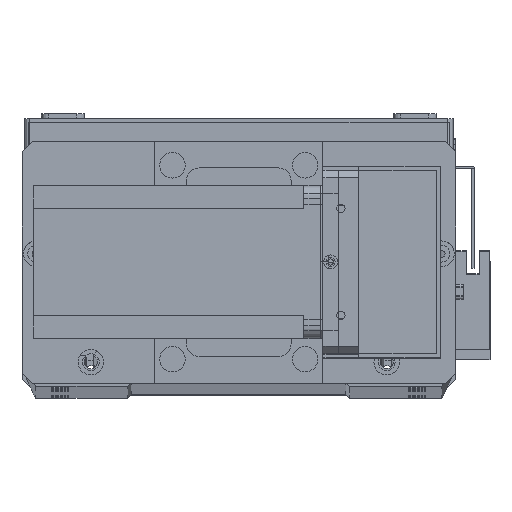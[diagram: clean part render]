
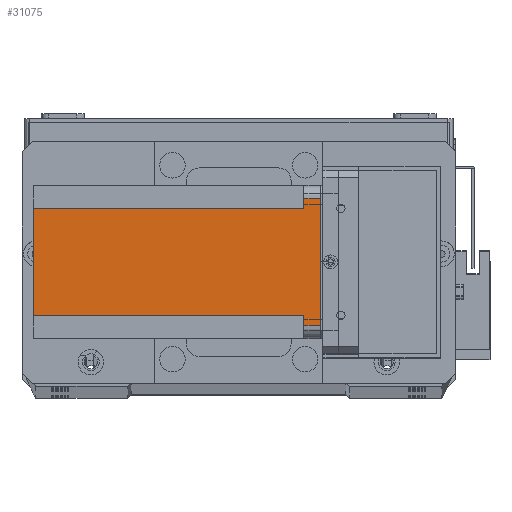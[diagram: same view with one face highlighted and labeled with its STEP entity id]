
A CAD part, top view. The second image highlights one B-rep face of the part: STEP entity #31075.
In plain terms, the highlighted planar face has unit normal (0, 0, 1) as drawn and (-1, 0, 0) by its records, which use the part's own axes.
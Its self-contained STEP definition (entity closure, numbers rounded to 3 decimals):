
#484 = ORIENTED_EDGE ( 'NONE', *, *, #1115, .F. ) ;
#1115 = EDGE_CURVE ( 'NONE', #31172, #25699, #19285, .T. ) ;
#1450 = VECTOR ( 'NONE', #26125, 1000. ) ;
#1812 = EDGE_CURVE ( 'NONE', #31875, #1965, #6673, .T. ) ;
#1818 = EDGE_CURVE ( 'NONE', #7607, #27470, #12912, .T. ) ;
#1856 = EDGE_CURVE ( 'NONE', #7607, #1965, #11250, .T. ) ;
#1899 = EDGE_CURVE ( 'NONE', #31172, #8650, #8779, .T. ) ;
#1902 = EDGE_CURVE ( 'NONE', #31875, #16271, #15776, .T. ) ;
#1965 = VERTEX_POINT ( 'NONE', #17737 ) ;
#2016 = EDGE_CURVE ( 'NONE', #25699, #16271, #26228, .T. ) ;
#2128 = EDGE_CURVE ( 'NONE', #27470, #8650, #17753, .T. ) ;
#3402 = ORIENTED_EDGE ( 'NONE', *, *, #1899, .T. ) ;
#4356 = DIRECTION ( 'NONE',  ( 0., 0., 1. ) ) ;
#4749 = ORIENTED_EDGE ( 'NONE', *, *, #2128, .F. ) ;
#5437 = EDGE_LOOP ( 'NONE', ( #18511, #20855, #23823, #26074, #28714, #484, #3402, #4749 ) ) ;
#5817 = AXIS2_PLACEMENT_3D ( 'NONE', #12234, #29965, #14895 ) ;
#6673 = LINE ( 'NONE', #19435, #32217 ) ;
#7607 = VERTEX_POINT ( 'NONE', #24622 ) ;
#8650 = VERTEX_POINT ( 'NONE', #9484 ) ;
#8779 = LINE ( 'NONE', #11498, #1450 ) ;
#8814 = CARTESIAN_POINT ( 'NONE',  ( 0., 5., -112.5 ) ) ;
#9484 = CARTESIAN_POINT ( 'NONE',  ( 0., 9., -112.5 ) ) ;
#9561 = CARTESIAN_POINT ( 'NONE',  ( 0., 51., -6.5 ) ) ;
#11250 = LINE ( 'NONE', #8814, #30701 ) ;
#11498 = CARTESIAN_POINT ( 'NONE',  ( 0., 0., -112.5 ) ) ;
#12234 = CARTESIAN_POINT ( 'NONE',  ( 0., 0., -112.5 ) ) ;
#12369 = CARTESIAN_POINT ( 'NONE',  ( 0., 55., -6.5 ) ) ;
#12912 = LINE ( 'NONE', #21358, #18952 ) ;
#13284 = VECTOR ( 'NONE', #31747, 1000. ) ;
#13669 = CARTESIAN_POINT ( 'NONE',  ( 0., 9., -6.5 ) ) ;
#14895 = DIRECTION ( 'NONE',  ( 0., -1., 0. ) ) ;
#15776 = LINE ( 'NONE', #27940, #22647 ) ;
#16271 = VERTEX_POINT ( 'NONE', #12369 ) ;
#16951 = DIRECTION ( 'NONE',  ( 0., 1., 0. ) ) ;
#17737 = CARTESIAN_POINT ( 'NONE',  ( 0., 5., 0. ) ) ;
#17753 = LINE ( 'NONE', #27195, #23056 ) ;
#18511 = ORIENTED_EDGE ( 'NONE', *, *, #1818, .F. ) ;
#18952 = VECTOR ( 'NONE', #16951, 1000. ) ;
#19285 = LINE ( 'NONE', #28423, #13284 ) ;
#19323 = VECTOR ( 'NONE', #30714, 1000. ) ;
#19435 = CARTESIAN_POINT ( 'NONE',  ( 0., 0., 0. ) ) ;
#19723 = DIRECTION ( 'NONE',  ( 0., -1., 0. ) ) ;
#19996 = DIRECTION ( 'NONE',  ( 0., 0., -1. ) ) ;
#20855 = ORIENTED_EDGE ( 'NONE', *, *, #1856, .T. ) ;
#21358 = CARTESIAN_POINT ( 'NONE',  ( 0., 0., -6.5 ) ) ;
#22647 = VECTOR ( 'NONE', #25007, 1000. ) ;
#23056 = VECTOR ( 'NONE', #19996, 1000. ) ;
#23823 = ORIENTED_EDGE ( 'NONE', *, *, #1812, .F. ) ;
#24622 = CARTESIAN_POINT ( 'NONE',  ( 0., 5., -6.5 ) ) ;
#24833 = FACE_OUTER_BOUND ( 'NONE', #5437, .T. ) ;
#25007 = DIRECTION ( 'NONE',  ( 0., 0., -1. ) ) ;
#25699 = VERTEX_POINT ( 'NONE', #9561 ) ;
#26074 = ORIENTED_EDGE ( 'NONE', *, *, #1902, .T. ) ;
#26125 = DIRECTION ( 'NONE',  ( 0., -1., 0. ) ) ;
#26228 = LINE ( 'NONE', #29502, #19323 ) ;
#26589 = CARTESIAN_POINT ( 'NONE',  ( 0., 55., 0. ) ) ;
#27195 = CARTESIAN_POINT ( 'NONE',  ( 0., 9., -112.5 ) ) ;
#27470 = VERTEX_POINT ( 'NONE', #13669 ) ;
#27603 = PLANE ( 'NONE',  #5817 ) ;
#27794 = CARTESIAN_POINT ( 'NONE',  ( 0., 51., -112.5 ) ) ;
#27940 = CARTESIAN_POINT ( 'NONE',  ( 0., 55., -112.5 ) ) ;
#28423 = CARTESIAN_POINT ( 'NONE',  ( 0., 51., -112.5 ) ) ;
#28714 = ORIENTED_EDGE ( 'NONE', *, *, #2016, .F. ) ;
#29502 = CARTESIAN_POINT ( 'NONE',  ( 0., 60., -6.5 ) ) ;
#29965 = DIRECTION ( 'NONE',  ( -1., 0., 0. ) ) ;
#30701 = VECTOR ( 'NONE', #4356, 1000. ) ;
#30714 = DIRECTION ( 'NONE',  ( 0., 1., 0. ) ) ;
#31075 = ADVANCED_FACE ( 'NONE', ( #24833 ), #27603, .T. ) ;
#31172 = VERTEX_POINT ( 'NONE', #27794 ) ;
#31747 = DIRECTION ( 'NONE',  ( 0., 0., 1. ) ) ;
#31875 = VERTEX_POINT ( 'NONE', #26589 ) ;
#32217 = VECTOR ( 'NONE', #19723, 1000. ) ;
